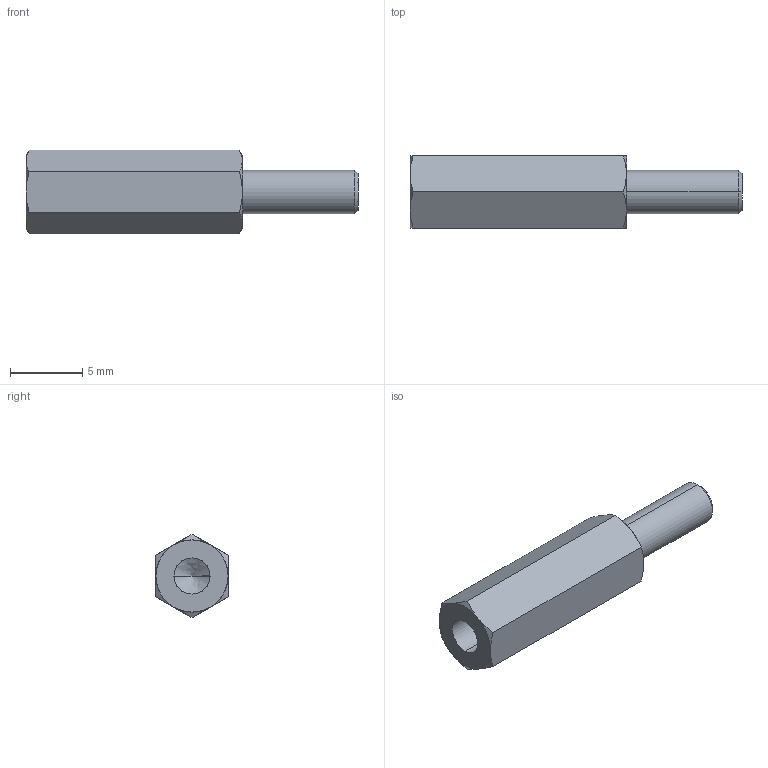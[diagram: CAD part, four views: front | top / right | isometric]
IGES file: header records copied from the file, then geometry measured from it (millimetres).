
Start section: SolidWorks IGES file using analytic representation for surfaces
Global section: file name: C:\Users\render1\Desktop\P0185_IGES\P0185.03-15.igs; native system: SolidWorks 2009; preprocessor: SolidWorks 2009; author: render1; date: 130627.111725; units: millimetre
Bounding box: 23 x 5 x 5.77 mm (x, y, z)
Surface area: 438.6 mm2 (no closed solid volume)
Topology: 0 solids, 0 shells, 29 faces, 324 edges, 322 vertices
Faces by surface type: revolution 20, bspline 9
